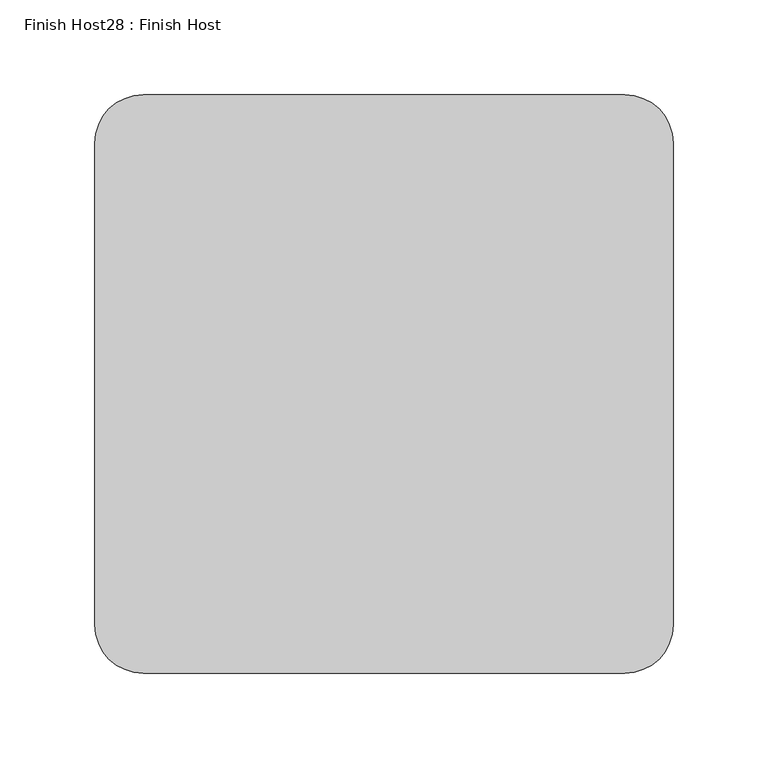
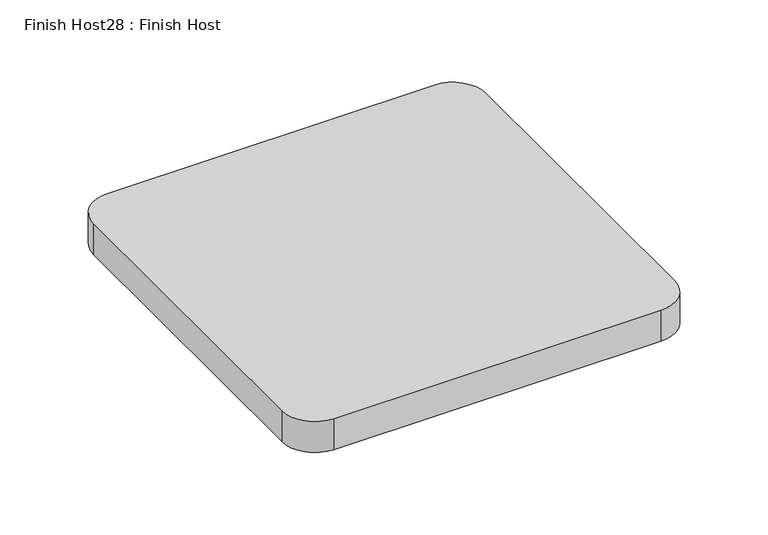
"""IFC4 building model written with IfcOpenShell, lengths in millimetres: proxy geometry, Finish Host28 : Finish Host."""

import ifcopenshell
import ifcopenshell.guid

model = None  # the IFC model being written
_history = None  # IfcOwnerHistory: only IFC2X3 demands one
_inside = {}  # id of a spatial element -> (the spatial element, [elements in it])
_under = {}  # id of a project, library or spatial element -> (it, [spatial elements below it])
_declared = {}  # id of a project -> (the project, [libraries it declares])
_typed = {}  # id of a type object -> (the type object, [elements of that type])
_made_of = {}  # id of a material, layer set ... -> (it, [elements and type objects made of it])


def new_model(schema):
    """Start an empty IFC model of exactly this schema.

    Asked for "IFC4X3", IfcOpenShell would pick the latest addendum, in which some entities
    have other attributes; the version numbers below select the first issue.
    IFC2X3 requires an IfcOwnerHistory on every rooted entity: one is made here for all.
    """
    global model, _history
    if schema == "IFC4X3":
        model = ifcopenshell.file(schema_version=(4, 3, 0, 0))
    else:
        model = ifcopenshell.file(schema=schema)
    _inside.clear()
    _under.clear()
    _declared.clear()
    _typed.clear()
    _made_of.clear()
    _history = None
    if model.schema == "IFC2X3":
        org = make("IfcOrganization", Name="unknown")
        user = make(
            "IfcPersonAndOrganization",
            ThePerson=make("IfcPerson", FamilyName="unknown"),
            TheOrganization=org,
        )
        app = make(
            "IfcApplication",
            ApplicationDeveloper=org,
            Version="unknown",
            ApplicationFullName="unknown",
            ApplicationIdentifier="unknown",
        )
        _history = make(
            "IfcOwnerHistory",
            OwningUser=user,
            OwningApplication=app,
            ChangeAction="ADDED",
            CreationDate=0,
        )
    return model


def make(cls, **values):
    """One entity of the class cls with the attributes given. An attribute that is None is left unset."""
    return model.create_entity(
        cls, **{name: value for name, value in values.items() if value is not None}
    )


def rooted(cls, **values):
    """An entity with a GlobalId (a new one), such as an element, a storey or a relation."""
    return make(cls, GlobalId=ifcopenshell.guid.new(), OwnerHistory=_history, **values)


def si_unit(unit_type, name, prefix=None):
    """IfcSIUnit, for example si_unit("LENGTHUNIT", "METRE", prefix="MILLI")."""
    return make("IfcSIUnit", UnitType=unit_type, Prefix=prefix, Name=name)


def assignment(units):
    """IfcUnitAssignment: the units of a project."""
    return None if units is None else make("IfcUnitAssignment", Units=units)


def point(xyz):
    """IfcCartesianPoint."""
    return None if xyz is None else make("IfcCartesianPoint", Coordinates=xyz)


def direction(xyz):
    """IfcDirection."""
    return None if xyz is None else make("IfcDirection", DirectionRatios=xyz)


def frame(location, z_axis=None, x_axis=None):
    """IfcAxis2Placement3D, a coordinate frame: its origin and axes. An axis left out is left unset."""
    return make(
        "IfcAxis2Placement3D",
        Location=point(location),
        Axis=direction(z_axis),
        RefDirection=direction(x_axis),
    )


def frame_2d(location, x_axis=None):
    """IfcAxis2Placement2D, a coordinate frame in the plane: its origin and x axis."""
    return make(
        "IfcAxis2Placement2D", Location=point(location), RefDirection=direction(x_axis)
    )


def origin():
    """The frame at (0, 0, 0) with its axes left unset."""
    return frame((0.0, 0.0, 0.0))


def origin_with_axes():
    """The frame at (0, 0, 0) with the z axis (0, 0, 1) and the x axis (1, 0, 0) written out."""
    return frame((0.0, 0.0, 0.0), z_axis=(0.0, 0.0, 1.0), x_axis=(1.0, 0.0, 0.0))


def place(relative_to, where):
    """IfcLocalPlacement: puts the frame where relative to a parent placement (None: the world)."""
    return make(
        "IfcLocalPlacement", PlacementRelTo=relative_to, RelativePlacement=where
    )


def context(
    kind, dimensions, precision=None, world=None, true_north=None, identifier=None
):
    """IfcGeometricRepresentationContext, for example the 3D "Model" context."""
    return make(
        "IfcGeometricRepresentationContext",
        ContextIdentifier=identifier,
        ContextType=kind,
        CoordinateSpaceDimension=dimensions,
        Precision=precision,
        WorldCoordinateSystem=world,
        TrueNorth=true_north,
    )


def project(units=None, contexts=None):
    """IfcProject with its units and contexts."""
    return rooted(
        "IfcProject",
        Name="project",
        RepresentationContexts=contexts,
        UnitsInContext=assignment(units),
    )


def spatial(cls, under=None, at=None, **own):
    """A site, building, storey or space (cls), placed at a placement, below another one or the project."""
    s = rooted(cls, ObjectPlacement=at, **own)
    if under is not None:
        _under.setdefault(under.id(), (under, []))[1].append(s)
    return s


def polyline(points):
    """IfcPolyline through the points."""
    return make("IfcPolyline", Points=[point(p) for p in points])


def circle_curve(where, radius):
    """IfcCircle in the frame where."""
    return make("IfcCircle", Position=where, Radius=radius)


def trimmed(basis, trim1, trim2, sense, master):
    """IfcTrimmedCurve: the piece of a basis curve between two trims."""
    return make(
        "IfcTrimmedCurve",
        BasisCurve=basis,
        Trim1=trim1,
        Trim2=trim2,
        SenseAgreement=sense,
        MasterRepresentation=master,
    )


def segment(curve, same_sense, transition):
    """IfcCompositeCurveSegment."""
    return make(
        "IfcCompositeCurveSegment",
        Transition=transition,
        SameSense=same_sense,
        ParentCurve=curve,
    )


def composite_curve(segments, self_intersect=None):
    """IfcCompositeCurve: segments joined end to end."""
    return make("IfcCompositeCurve", Segments=segments, SelfIntersect=self_intersect)


def outline(outer, holes=None, kind="AREA"):
    """IfcArbitraryClosedProfileDef: a profile drawn as a closed curve; with holes, ...WithVoids."""
    if holes is None:
        return make("IfcArbitraryClosedProfileDef", ProfileType=kind, OuterCurve=outer)
    return make(
        "IfcArbitraryProfileDefWithVoids",
        ProfileType=kind,
        OuterCurve=outer,
        InnerCurves=holes,
    )


def extrude(swept, where, along, depth):
    """IfcExtrudedAreaSolid: the profile swept, set in the frame where, extruded along a direction by depth."""
    return make(
        "IfcExtrudedAreaSolid",
        SweptArea=swept,
        Position=where,
        ExtrudedDirection=direction(along),
        Depth=depth,
    )


def shape(context_of_items, identifier, shape_type, items):
    """IfcShapeRepresentation: the items that make up one representation, for example the "Body"."""
    return make(
        "IfcShapeRepresentation",
        ContextOfItems=context_of_items,
        RepresentationIdentifier=identifier,
        RepresentationType=shape_type,
        Items=items,
    )


def source(mapping_origin, context_of_items, identifier, shape_type, items):
    """IfcRepresentationMap: a shape defined once, which mapped items show again and again."""
    return make(
        "IfcRepresentationMap",
        MappingOrigin=mapping_origin,
        MappedRepresentation=shape(context_of_items, identifier, shape_type, items),
    )


def transform(
    local_origin,
    x_axis=None,
    y_axis=None,
    z_axis=None,
    scale=None,
    scale2=None,
    scale3=None,
    uniform=True,
):
    """IfcCartesianTransformationOperator3D, or its non-uniform kind. x_axis, y_axis, z_axis: its Axis1, 2, 3."""
    if uniform:
        return make(
            "IfcCartesianTransformationOperator3D",
            Axis1=direction(x_axis),
            Axis2=direction(y_axis),
            LocalOrigin=point(local_origin),
            Scale=scale,
            Axis3=direction(z_axis),
        )
    return make(
        "IfcCartesianTransformationOperator3DnonUniform",
        Axis1=direction(x_axis),
        Axis2=direction(y_axis),
        LocalOrigin=point(local_origin),
        Scale=scale,
        Axis3=direction(z_axis),
        Scale2=scale2,
        Scale3=scale3,
    )


def mapped(mapping_source, mapping_target):
    """IfcMappedItem: shows the shape of a source again, moved by a transform."""
    return make(
        "IfcMappedItem", MappingSource=mapping_source, MappingTarget=mapping_target
    )


def made_of(thing, what):
    """Note that an element or type object is made of a material, layer set ...; save() writes the relation."""
    if what is not None:
        _made_of.setdefault(what.id(), (what, []))[1].append(thing)
    return thing


def element(
    cls,
    number,
    at=None,
    inside=None,
    cuts=None,
    type_object=None,
    material=None,
    context=None,
    identifier="Body",
    shape_type=None,
    held_by="IfcProductDefinitionShape",
    body=None,
    shapes=None,
    **own,
):
    """One element of the class cls, such as IfcWall. Its Tag is "e" and its number.

    at: its placement. inside: the storey or other place that contains it. cuts: it is an
    opening in that element (IfcRelVoidsElement). A single representation is given by context,
    identifier, shape_type and body (its items); several are given by shapes. held_by: the class
    of the entity that holds the representations. save() writes the other relations.
    """
    e = rooted(cls, Tag="e%d" % number, ObjectPlacement=at, **own)
    if body is not None:
        shapes = [shape(context, identifier, shape_type, body)]
    if shapes is not None:
        e.Representation = make(held_by, Representations=shapes)
    if inside is not None:
        _inside.setdefault(inside.id(), (inside, []))[1].append(e)
    if cuts is not None:
        rooted(
            "IfcRelVoidsElement", RelatingBuildingElement=cuts, RelatedOpeningElement=e
        )
    if type_object is not None:
        _typed.setdefault(type_object.id(), (type_object, []))[1].append(e)
    return made_of(e, material)


def aggregate(whole, parts):
    """IfcRelAggregates: a whole, such as a stair, and the parts it consists of."""
    return rooted("IfcRelAggregates", RelatingObject=whole, RelatedObjects=parts)


def save(model, path):
    """Write the relations noted so far, then the file.

    IfcRelAggregates (storeys below a building ...), IfcRelContainedInSpatialStructure (elements
    in a storey), IfcRelDefinesByType, IfcRelAssociatesMaterial and IfcRelDeclares: one each for
    every whole, place, type object, material and project.
    """
    for whole, parts in _under.values():
        aggregate(whole, parts)
    for where, things in _inside.values():
        rooted(
            "IfcRelContainedInSpatialStructure",
            RelatedElements=things,
            RelatingStructure=where,
        )
    for kind, things in _typed.values():
        rooted("IfcRelDefinesByType", RelatedObjects=things, RelatingType=kind)
    for what, things in _made_of.values():
        rooted("IfcRelAssociatesMaterial", RelatedObjects=things, RelatingMaterial=what)
    for by, libraries in _declared.values():
        rooted("IfcRelDeclares", RelatingContext=by, RelatedDefinitions=libraries)
    model.write(path)


def finish_host28_finish_host_5dfcda00(model_context):
    return source(origin(), model_context, "Body", "SweptSolid", [
        extrude(outline(composite_curve([segment(polyline([(5787.5649374, 3242.5667263), (5787.5649374, 3496.5667263)]), True, "CONTINUOUS"), segment(trimmed(circle_curve(frame_2d((5812.9649374, 3496.5667263)), 25.4), [point((5787.5649374, 3496.5667263))], [point((5812.9649374, 3521.9667263))], False, "CARTESIAN"), True, "CONTINUOUS"), segment(polyline([(5812.9649374, 3521.9667263), (6066.9649374, 3521.9667263)]), True, "CONTINUOUS"), segment(trimmed(circle_curve(frame_2d((6066.9649374, 3496.5667263)), 25.4), [point((6066.9649374, 3521.9667263))], [point((6092.3649374, 3496.5667263))], False, "CARTESIAN"), True, "CONTINUOUS"), segment(polyline([(6092.3649374, 3496.5667263), (6092.3649374, 3242.5667263)]), True, "CONTINUOUS"), segment(trimmed(circle_curve(frame_2d((6066.9649374, 3242.5667263)), 25.4), [point((6092.3649374, 3242.5667263))], [point((6066.9649374, 3217.1667263))], False, "CARTESIAN"), True, "CONTINUOUS"), segment(polyline([(6066.9649374, 3217.1667263), (5812.9649374, 3217.1667263)]), True, "CONTINUOUS"), segment(trimmed(circle_curve(frame_2d((5812.9649374, 3242.5667263)), 25.4), [point((5812.9649374, 3217.1667263))], [point((5787.5649374, 3242.5667263))], False, "CARTESIAN"), True, "CONTINUOUS")], self_intersect=False)), origin_with_axes(), (0.0, 0.0, 1.0), 25.4),
    ])


if __name__ == "__main__":
    model = new_model("IFC4")
    model_context = context("Model", 3, world=origin())
    ifc_project = project(units=[si_unit("LENGTHUNIT", "METRE", prefix="MILLI")], contexts=[model_context])
    site = spatial("IfcSite", under=ifc_project)
    building = spatial("IfcBuilding", under=site)
    placement = place(None, origin())
    finish_host28_finish_host_shape = finish_host28_finish_host_5dfcda00(model_context)
    element("IfcBuildingElementProxy", 1, Name="Finish Host28 : Finish Host", ObjectType="Finish Host28 : Finish Host", at=placement, inside=building, context=model_context, shape_type="MappedRepresentation", body=[
        mapped(finish_host28_finish_host_shape, transform((0.0, 0.0, 0.0), x_axis=(1.0, 0.0, 0.0), y_axis=(0.0, 1.0, 0.0), z_axis=(0.0, 0.0, 1.0))),
    ])
    save(model, "model.ifc")
